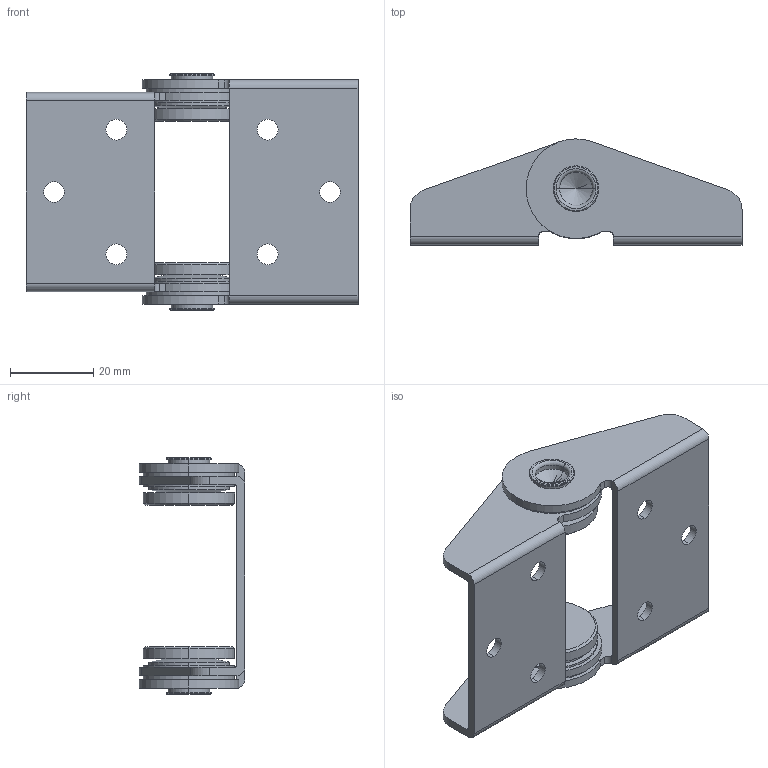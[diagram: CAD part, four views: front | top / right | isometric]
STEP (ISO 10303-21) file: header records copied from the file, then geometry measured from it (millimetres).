
FILE_DESCRIPTION (( 'STEP AP203' ), '1' );
FILE_NAME ('XG11-014-2.STEP', '2023-12-04T07:03:22', ( '' ), ( '' ), 'SwSTEP 2.0', 'SolidWorks 2020', '' );
FILE_SCHEMA (( 'CONFIG_CONTROL_DESIGN' ));
Length unit declared in the file: millimetre
Products named in the file (2): 錨璃1; XG11-014-2
Assembly tree (1 placements, depth 2):
  XG11-014-2
    錨璃1
Bounding box: 80 x 25.5 x 57 mm (x, y, z)
Volume: 17339.9 mm3; surface area: 20572.3 mm2
Topology: 10 solids, 10 shells, 146 faces, 346 edges, 222 vertices
Faces by surface type: cylinder 82, plane 44, cone 16, torus 4
Entity records: 4500 total; most frequent: DIRECTION 822, CARTESIAN_POINT 734, ORIENTED_EDGE 684, EDGE_CURVE 342, AXIS2_PLACEMENT_3D 334, VERTEX_POINT 222, EDGE_LOOP 184, CIRCLE 184
